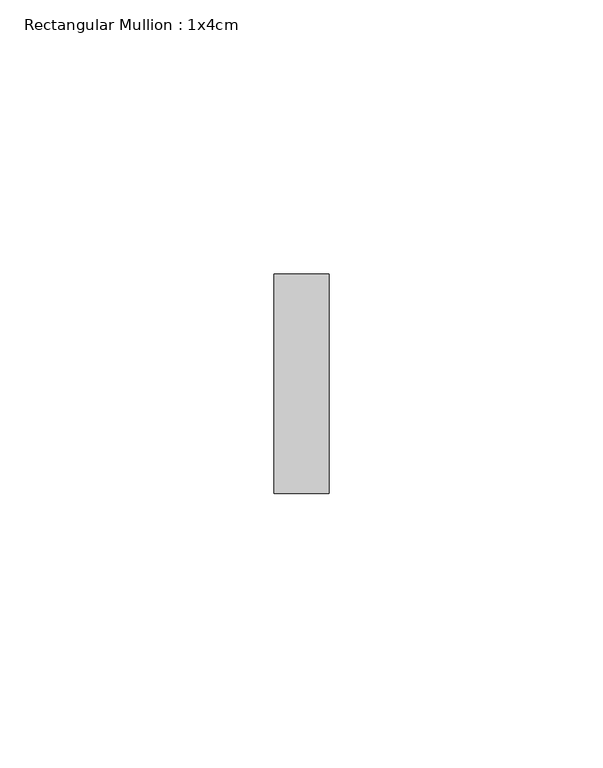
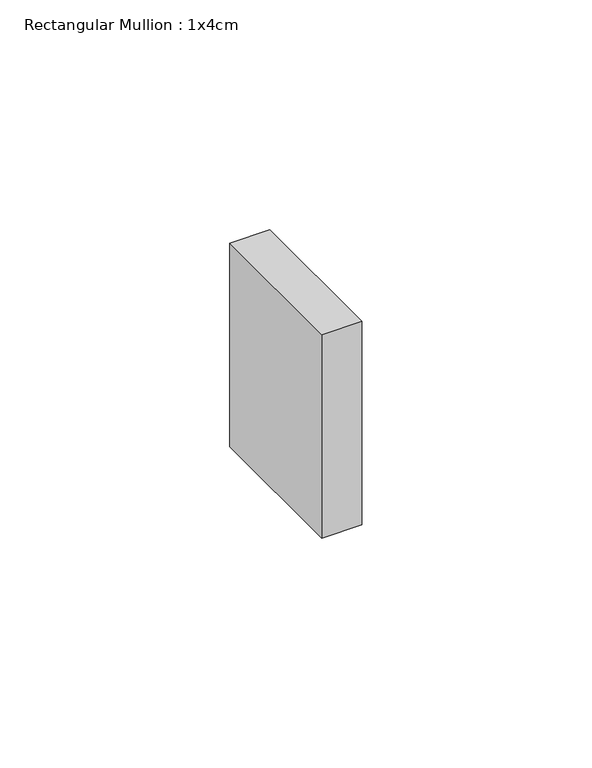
"""IFC4 building model written with IfcOpenShell, lengths in millimetres: member geometry, Rectangular Mullion : 1x4cm."""

from ifc_helpers import new_model, si_unit, frame, origin, place, context, project, spatial, polyline, outline, extrude, source, transform, mapped, element, save


def rectangular_mullion_1x4cm_e9e767ec(model_context):
    return source(origin(), model_context, "Body", "SweptSolid", [
        extrude(outline(polyline([(0.0, 20.0), (0.0, -20.0), (-10.0, -20.0), (-10.0, 20.0), (0.0, 20.0)])), frame((0.0, 0.0, -54.0129), z_axis=(0.0, 0.0, 1.0), x_axis=(1.0, 0.0, 0.0)), (0.0, 0.0, 1.0), 54.0129),
    ])


if __name__ == "__main__":
    model = new_model("IFC4")
    model_context = context("Model", 3, world=origin())
    ifc_project = project(units=[si_unit("LENGTHUNIT", "METRE", prefix="MILLI")], contexts=[model_context])
    site = spatial("IfcSite", under=ifc_project)
    building = spatial("IfcBuilding", under=site)
    placement = place(None, origin())
    rectangular_mullion_1x4cm_shape = rectangular_mullion_1x4cm_e9e767ec(model_context)
    element("IfcMember", 1, ObjectType="Rectangular Mullion : 1x4cm", at=placement, inside=building, context=model_context, shape_type="MappedRepresentation", body=[
        mapped(rectangular_mullion_1x4cm_shape, transform((0.0, 0.0, 0.0), x_axis=(1.0, 0.0, 0.0), y_axis=(0.0, 1.0, 0.0), z_axis=(0.0, 0.0, 1.0))),
    ])
    save(model, "model.ifc")
